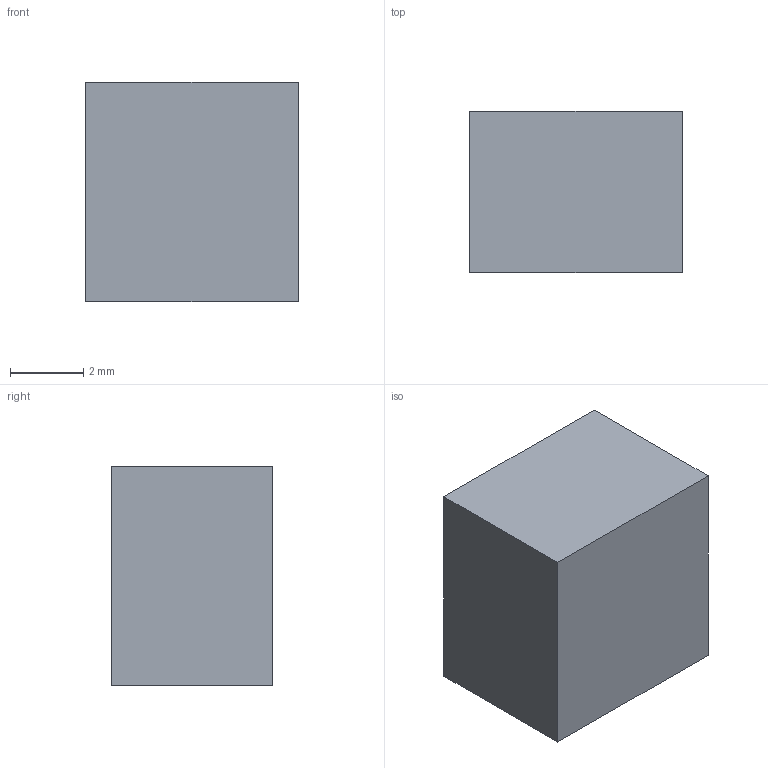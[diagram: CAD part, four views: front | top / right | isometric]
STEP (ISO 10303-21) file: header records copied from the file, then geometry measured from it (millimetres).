
FILE_DESCRIPTION(('JST PH series 2.00 mm 2-way vertical header -- body envelope 6.00 mm tall (JST PH vertical header)'),'2;1');
FILE_NAME('JST_PH_B2B-PH-K_1x02_P2.00mm_Vertical','2026-09-08T00:00:00',('TI One Voice research programme'),(''),'EEG-CAR-01 step_write.py','','CC BY-SA 4.0');
FILE_SCHEMA(('AUTOMOTIVE_DESIGN { 1 0 10303 214 1 1 1 1 }'));
Length unit declared in the file: millimetre
Products named in the file (1): JST_PH_B2B-PH-K_1x02_P2.00mm_Vertical
Bounding box: 5.8 x 4.4 x 6 mm (x, y, z)
Volume: 153.1 mm3; surface area: 173.4 mm2
Topology: 1 solids, 1 shells, 6 faces, 12 edges, 8 vertices
Faces by surface type: plane 6
Entity records: 67 total; most frequent: DIRECTION 14, CARTESIAN_POINT 9, AXIS2_PLACEMENT_3D 7, POLY_LOOP 6, FACE_OUTER_BOUND 6, PLANE 6, FACE_SURFACE 6, UNCERTAINTY_MEASURE_WITH_UNIT 1
